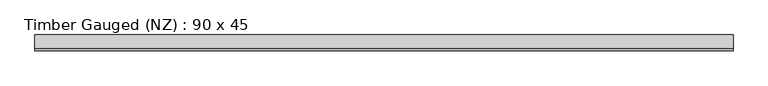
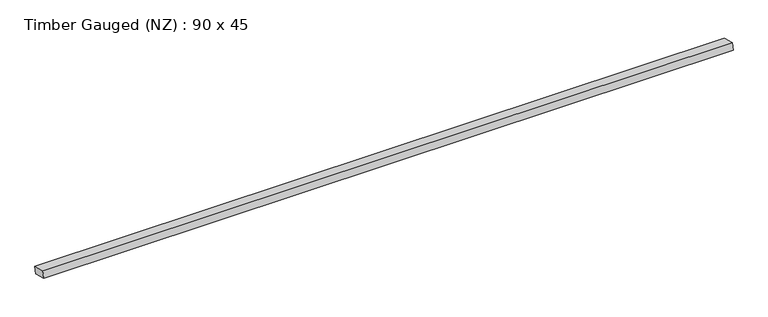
"""IFC4 building model written with IfcOpenShell, lengths in millimetres: beam geometry, Timber Gauged (NZ) : 90 x 45."""

from ifc_helpers import new_model, si_unit, frame, origin, place, context, project, spatial, polyline, outline, extrude, source, transform, mapped, element, save


def timber_gauged_nz_90_x_45_fdef7c8e(model_context):
    return source(origin(), model_context, "Body", "SweptSolid", [
        extrude(outline(polyline([(0.0, -90.0), (0.0, 0.0), (4334.8429656, 0.0), (4334.8429656, -90.0), (0.0, -90.0)])), frame((2189.4543179, -49.2900907, -10.0864741), z_axis=(0.0, 0.2588190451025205, 0.9659258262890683), x_axis=(-1.0, 0.0, 0.0)), (0.0, 0.0, 1.0), 45.0),
    ])


if __name__ == "__main__":
    model = new_model("IFC4")
    model_context = context("Model", 3, world=origin())
    ifc_project = project(units=[si_unit("LENGTHUNIT", "METRE", prefix="MILLI")], contexts=[model_context])
    site = spatial("IfcSite", under=ifc_project)
    building = spatial("IfcBuilding", under=site)
    placement = place(None, origin())
    timber_gauged_nz_90_x_45_shape = timber_gauged_nz_90_x_45_fdef7c8e(model_context)
    element("IfcBeam", 1, ObjectType="Timber Gauged (NZ) : 90 x 45", at=placement, inside=building, context=model_context, shape_type="MappedRepresentation", body=[
        mapped(timber_gauged_nz_90_x_45_shape, transform((0.0, 0.0, 0.0), x_axis=(1.0, 0.0, 0.0), y_axis=(0.0, 1.0, 0.0), z_axis=(0.0, 0.0, 1.0))),
    ])
    save(model, "model.ifc")
